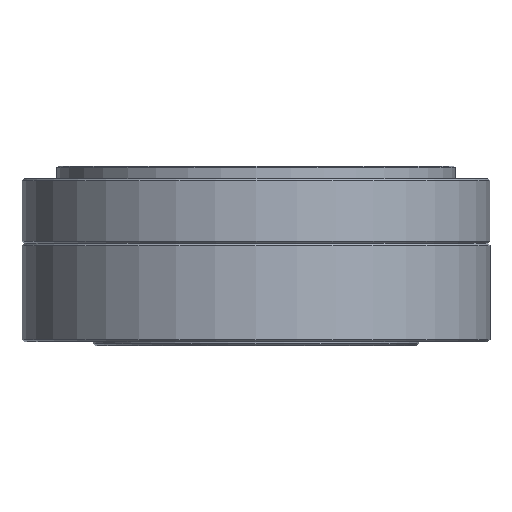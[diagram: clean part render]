
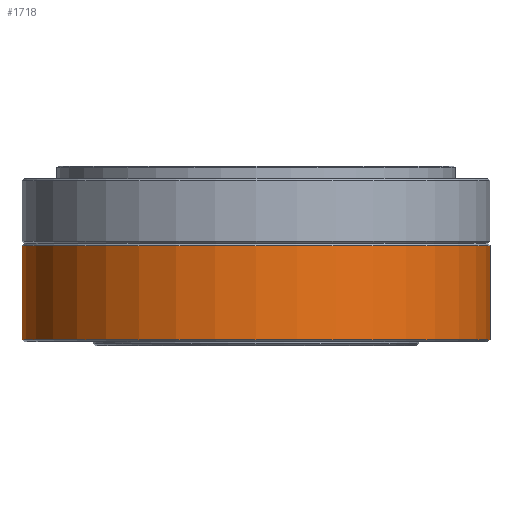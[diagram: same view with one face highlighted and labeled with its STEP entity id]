
A CAD part, front view. The second image highlights one B-rep face of the part: STEP entity #1718.
In plain terms, the highlighted cylindrical face has radius 56 mm (diameter 112 mm), a full revolution.
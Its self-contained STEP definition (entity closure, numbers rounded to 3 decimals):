
#1481=CYLINDRICAL_SURFACE('',#8796,56.);
#1718=ADVANCED_FACE('',(#2561,#2562),#1481,.T.);
#2561=FACE_BOUND('',#3473,.T.);
#2562=FACE_BOUND('',#3474,.T.);
#3473=EDGE_LOOP('',(#4529));
#3474=EDGE_LOOP('',(#4530));
#4529=ORIENTED_EDGE('',*,*,#7083,.T.);
#4530=ORIENTED_EDGE('',*,*,#7082,.F.);
#6300=VERTEX_POINT('',#12963);
#6301=VERTEX_POINT('',#12966);
#7082=EDGE_CURVE('',#6300,#6300,#8006,.T.);
#7083=EDGE_CURVE('',#6301,#6301,#8007,.T.);
#8006=CIRCLE('',#8793,56.);
#8007=CIRCLE('',#8795,56.);
#8793=AXIS2_PLACEMENT_3D('',#12962,#10305,#10306);
#8795=AXIS2_PLACEMENT_3D('',#12965,#10309,#10310);
#8796=AXIS2_PLACEMENT_3D('',#12967,#10311,#10312);
#10305=DIRECTION('',(0.,0.,-1.));
#10306=DIRECTION('',(-1.,0.,0.));
#10309=DIRECTION('',(0.,0.,-1.));
#10310=DIRECTION('',(-1.,0.,0.));
#10311=DIRECTION('',(0.,0.,-1.));
#10312=DIRECTION('',(-1.,0.,0.));
#12962=CARTESIAN_POINT('',(0.,0.,1.5));
#12963=CARTESIAN_POINT('',(-56.,0.,1.5));
#12965=CARTESIAN_POINT('',(0.,0.,24.));
#12966=CARTESIAN_POINT('',(-56.,0.,24.));
#12967=CARTESIAN_POINT('',(0.,0.,0.));
